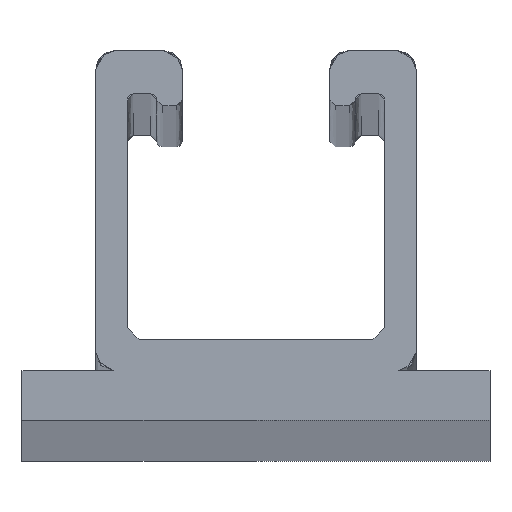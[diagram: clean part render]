
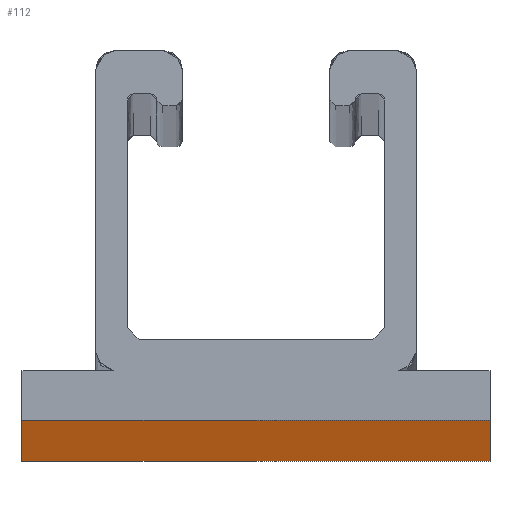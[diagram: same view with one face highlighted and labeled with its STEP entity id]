
A CAD part, top view. The second image highlights one B-rep face of the part: STEP entity #112.
In plain terms, the highlighted planar face has unit normal (0, -1, 0).
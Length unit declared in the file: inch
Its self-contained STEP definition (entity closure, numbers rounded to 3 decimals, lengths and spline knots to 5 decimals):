
#112=ADVANCED_FACE('',(#276),#277,.T.);
#276=FACE_OUTER_BOUND('',#512,.T.);
#277=PLANE('',#513);
#512=EDGE_LOOP('',(#957,#958,#959,#960));
#513=AXIS2_PLACEMENT_3D('',#961,#962,#963);
#957=ORIENTED_EDGE('',*,*,#1271,.T.);
#958=ORIENTED_EDGE('',*,*,#1272,.F.);
#959=ORIENTED_EDGE('',*,*,#1268,.T.);
#960=ORIENTED_EDGE('',*,*,#1273,.T.);
#961=CARTESIAN_POINT('',(1.1875,0.0,0.0));
#962=DIRECTION('',(0.0,-1.0,0.0));
#963=DIRECTION('',(1.0,0.0,0.0));
#1268=EDGE_CURVE('',#1442,#1440,#1443,.T.);
#1271=EDGE_CURVE('',#1446,#1447,#1448,.T.);
#1272=EDGE_CURVE('',#1442,#1447,#1449,.T.);
#1273=EDGE_CURVE('',#1440,#1446,#1450,.T.);
#1440=VERTEX_POINT('',#1715);
#1442=VERTEX_POINT('',#1718);
#1443=LINE('',#1719,#1720);
#1446=VERTEX_POINT('',#1724);
#1447=VERTEX_POINT('',#1725);
#1448=LINE('',#1726,#1727);
#1449=LINE('',#1728,#1729);
#1450=LINE('',#1730,#1731);
#1715=CARTESIAN_POINT('',(2.375,0.0,0.0));
#1718=CARTESIAN_POINT('',(0.0,0.0,0.0));
#1719=CARTESIAN_POINT('',(0.0,0.0,0.0));
#1720=VECTOR('',#1968,1.0);
#1724=CARTESIAN_POINT('',(2.375,0.0,120.0));
#1725=CARTESIAN_POINT('',(0.0,0.0,120.0));
#1726=CARTESIAN_POINT('',(0.0,0.0,120.0));
#1727=VECTOR('',#1970,1.0);
#1728=CARTESIAN_POINT('',(0.0,0.0,0.0));
#1729=VECTOR('',#1971,1.0);
#1730=CARTESIAN_POINT('',(2.375,0.0,0.0));
#1731=VECTOR('',#1972,1.0);
#1968=DIRECTION('',(1.0,0.0,0.0));
#1970=DIRECTION('',(-1.0,-0.0,-0.0));
#1971=DIRECTION('',(0.0,0.0,1.0));
#1972=DIRECTION('',(0.0,0.0,1.0));
